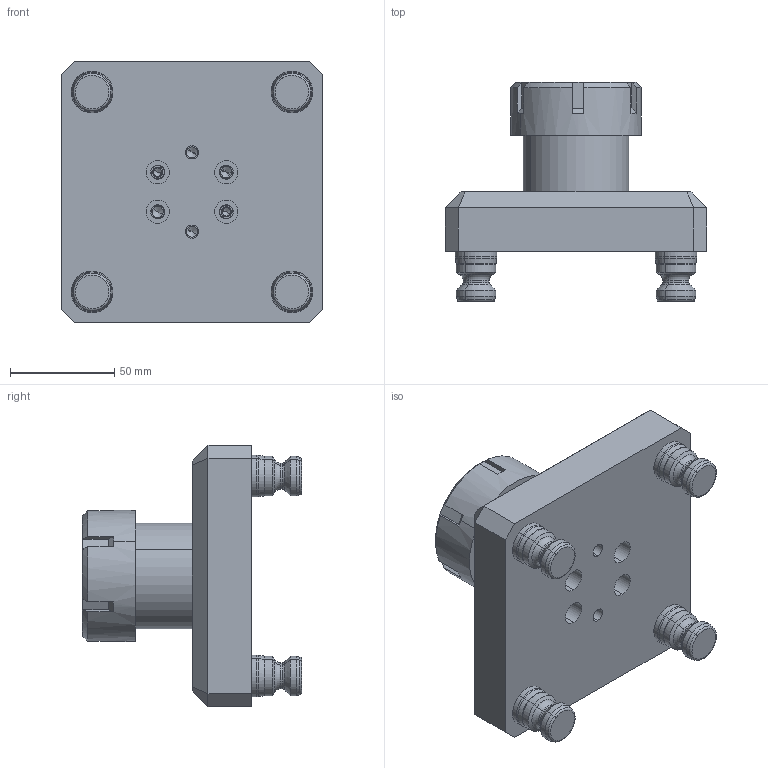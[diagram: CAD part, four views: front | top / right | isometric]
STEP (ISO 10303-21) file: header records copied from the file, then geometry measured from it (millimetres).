
FILE_DESCRIPTION (( 'STEP AP214' ), '1' );
FILE_NAME ('D_R96-CER40.STEP', '2020-03-13T21:28:01', ( '' ), ( '' ), 'SwSTEP 2.0', 'SolidWorks 2018', '' );
FILE_SCHEMA (( 'AUTOMOTIVE_DESIGN' ));
Length unit declared in the file: millimetre
Products named in the file (7): D_R96-CER40; D_CER40; D_R96-CER40-1; D_CER40-1_CER40; D_CER40-3_1"; D_CER40-2; D_PS20F_HARD TURN
Assembly tree (9 placements, depth 3):
  D_R96-CER40
    D_R96-CER40-1
    D_CER40
      D_CER40-1_CER40
      D_CER40-2
      D_CER40-3_1"
    D_PS20F_HARD TURN  x4
Bounding box: 125.73 x 105.28 x 125.73 mm (x, y, z)
Volume: 553378.3 mm3; surface area: 106597.4 mm2
Topology: 8 solids, 8 shells, 464 faces, 1122 edges, 689 vertices
Faces by surface type: plane 176, cylinder 129, cone 85, torus 72, bspline 2
Entity records: 12399 total; most frequent: CARTESIAN_POINT 3699, ORIENTED_EDGE 1764, DIRECTION 1757, EDGE_CURVE 882, AXIS2_PLACEMENT_3D 681, VERTEX_POINT 569, LINE 395, VECTOR 395
